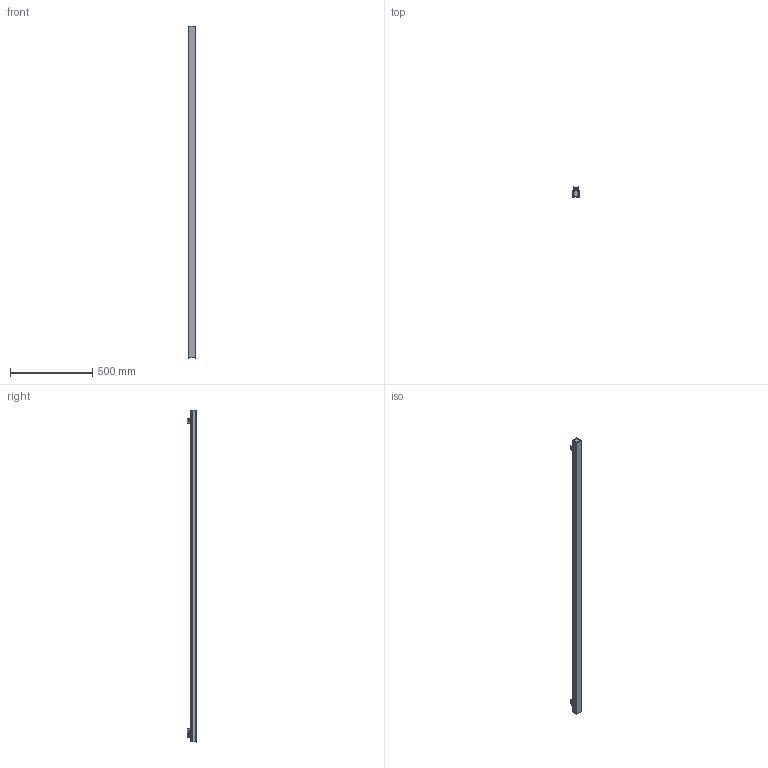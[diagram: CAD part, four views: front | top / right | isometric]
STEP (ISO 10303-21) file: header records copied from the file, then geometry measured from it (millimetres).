
FILE_DESCRIPTION((''),'2;1');
FILE_NAME('RNC_2020_SW0001','2025-07-24T11:24:44',('Piccioli'),(''),'CREO PARAMETRIC BY PTC INC, 2025010','CREO PARAMETRIC BY PTC INC, 2025010','');
FILE_SCHEMA(('CONFIG_CONTROL_DESIGN'));
Length unit declared in the file: millimetre
Products named in the file (1): RNC_2020_SW0001
Bounding box: 40 x 60.58 x 2018 mm (x, y, z)
Surface area: 334783.7 mm2 (no closed solid volume)
Topology: 0 solids, 11 shells, 97 faces, 447 edges, 335 vertices
Faces by surface type: plane 63, cylinder 24, bspline 6, torus 4
Entity records: 4954 total; most frequent: CARTESIAN_POINT 1311, DIRECTION 796, ORIENTED_EDGE 635, EDGE_CURVE 447, VERTEX_POINT 335, AXIS2_PLACEMENT_3D 282, VECTOR 232, LINE 232
